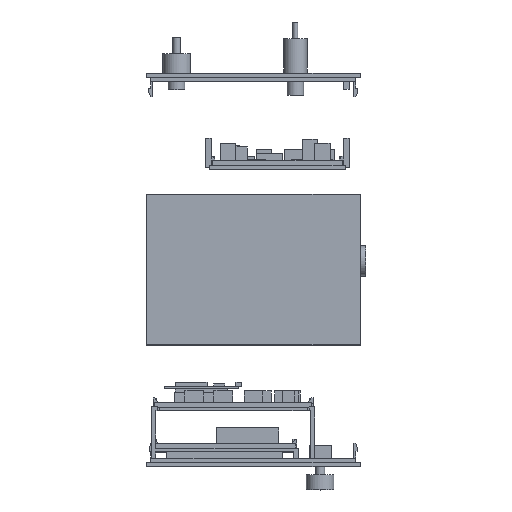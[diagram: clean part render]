
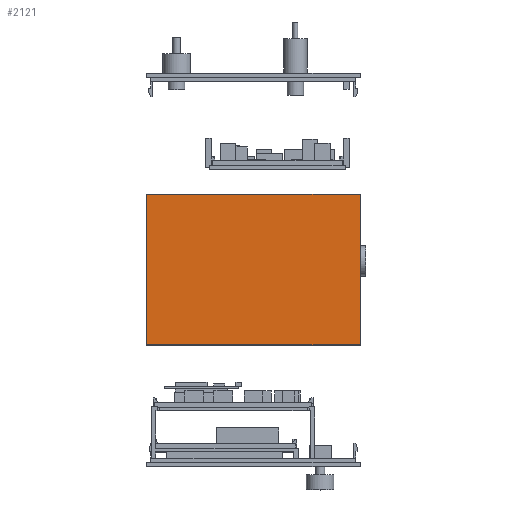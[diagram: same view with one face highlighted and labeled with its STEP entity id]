
A CAD part, top view. The second image highlights one B-rep face of the part: STEP entity #2121.
In plain terms, the highlighted planar face has unit normal (0, 0, 1).
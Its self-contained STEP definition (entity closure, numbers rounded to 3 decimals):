
#430 = VERTEX_POINT('',#431);
#431 = CARTESIAN_POINT('',(0.,3.,100.));
#438 = PLANE('',#439);
#439 = AXIS2_PLACEMENT_3D('',#440,#441,#442);
#440 = CARTESIAN_POINT('',(0.,3.,0.));
#441 = DIRECTION('',(1.,0.,0.));
#442 = DIRECTION('',(0.,0.,1.));
#450 = PLANE('',#451);
#451 = AXIS2_PLACEMENT_3D('',#452,#453,#454);
#452 = CARTESIAN_POINT('',(0.,3.,0.));
#453 = DIRECTION('',(0.,1.,0.));
#454 = DIRECTION('',(0.,0.,1.));
#491 = VERTEX_POINT('',#492);
#492 = CARTESIAN_POINT('',(0.,112.,100.));
#506 = PLANE('',#507);
#507 = AXIS2_PLACEMENT_3D('',#508,#509,#510);
#508 = CARTESIAN_POINT('',(0.,112.,0.));
#509 = DIRECTION('',(0.,1.,0.));
#510 = DIRECTION('',(0.,0.,1.));
#518 = EDGE_CURVE('',#430,#491,#519,.T.);
#519 = SURFACE_CURVE('',#520,(#524,#531),.PCURVE_S1.);
#520 = LINE('',#521,#522);
#521 = CARTESIAN_POINT('',(0.,3.,100.));
#522 = VECTOR('',#523,1.);
#523 = DIRECTION('',(0.,1.,0.));
#524 = PCURVE('',#438,#525);
#525 = DEFINITIONAL_REPRESENTATION('',(#526),#530);
#526 = LINE('',#527,#528);
#527 = CARTESIAN_POINT('',(100.,0.));
#528 = VECTOR('',#529,1.);
#529 = DIRECTION('',(0.,-1.));
#530 = ( GEOMETRIC_REPRESENTATION_CONTEXT(2) 
PARAMETRIC_REPRESENTATION_CONTEXT() REPRESENTATION_CONTEXT('2D SPACE',''
  ) );
#531 = PCURVE('',#532,#537);
#532 = PLANE('',#533);
#533 = AXIS2_PLACEMENT_3D('',#534,#535,#536);
#534 = CARTESIAN_POINT('',(0.,3.,100.));
#535 = DIRECTION('',(0.,0.,1.));
#536 = DIRECTION('',(1.,0.,0.));
#537 = DEFINITIONAL_REPRESENTATION('',(#538),#542);
#538 = LINE('',#539,#540);
#539 = CARTESIAN_POINT('',(0.,0.));
#540 = VECTOR('',#541,1.);
#541 = DIRECTION('',(0.,1.));
#542 = ( GEOMETRIC_REPRESENTATION_CONTEXT(2) 
PARAMETRIC_REPRESENTATION_CONTEXT() REPRESENTATION_CONTEXT('2D SPACE',''
  ) );
#1959 = EDGE_CURVE('',#430,#1960,#1962,.T.);
#1960 = VERTEX_POINT('',#1961);
#1961 = CARTESIAN_POINT('',(155.,3.,100.));
#1962 = SURFACE_CURVE('',#1963,(#1967,#1974),.PCURVE_S1.);
#1963 = LINE('',#1964,#1965);
#1964 = CARTESIAN_POINT('',(0.,3.,100.));
#1965 = VECTOR('',#1966,1.);
#1966 = DIRECTION('',(1.,0.,0.));
#1967 = PCURVE('',#450,#1968);
#1968 = DEFINITIONAL_REPRESENTATION('',(#1969),#1973);
#1969 = LINE('',#1970,#1971);
#1970 = CARTESIAN_POINT('',(100.,0.));
#1971 = VECTOR('',#1972,1.);
#1972 = DIRECTION('',(0.,1.));
#1973 = ( GEOMETRIC_REPRESENTATION_CONTEXT(2) 
PARAMETRIC_REPRESENTATION_CONTEXT() REPRESENTATION_CONTEXT('2D SPACE',''
  ) );
#1974 = PCURVE('',#532,#1975);
#1975 = DEFINITIONAL_REPRESENTATION('',(#1976),#1980);
#1976 = LINE('',#1977,#1978);
#1977 = CARTESIAN_POINT('',(0.,0.));
#1978 = VECTOR('',#1979,1.);
#1979 = DIRECTION('',(1.,0.));
#1980 = ( GEOMETRIC_REPRESENTATION_CONTEXT(2) 
PARAMETRIC_REPRESENTATION_CONTEXT() REPRESENTATION_CONTEXT('2D SPACE',''
  ) );
#1996 = PLANE('',#1997);
#1997 = AXIS2_PLACEMENT_3D('',#1998,#1999,#2000);
#1998 = CARTESIAN_POINT('',(155.,3.,0.));
#1999 = DIRECTION('',(1.,0.,0.));
#2000 = DIRECTION('',(0.,0.,1.));
#2121 = ADVANCED_FACE('',(#2122),#532,.T.);
#2122 = FACE_BOUND('',#2123,.T.);
#2123 = EDGE_LOOP('',(#2124,#2125,#2126,#2149));
#2124 = ORIENTED_EDGE('',*,*,#518,.F.);
#2125 = ORIENTED_EDGE('',*,*,#1959,.T.);
#2126 = ORIENTED_EDGE('',*,*,#2127,.T.);
#2127 = EDGE_CURVE('',#1960,#2128,#2130,.T.);
#2128 = VERTEX_POINT('',#2129);
#2129 = CARTESIAN_POINT('',(155.,112.,100.));
#2130 = SURFACE_CURVE('',#2131,(#2135,#2142),.PCURVE_S1.);
#2131 = LINE('',#2132,#2133);
#2132 = CARTESIAN_POINT('',(155.,3.,100.));
#2133 = VECTOR('',#2134,1.);
#2134 = DIRECTION('',(0.,1.,0.));
#2135 = PCURVE('',#532,#2136);
#2136 = DEFINITIONAL_REPRESENTATION('',(#2137),#2141);
#2137 = LINE('',#2138,#2139);
#2138 = CARTESIAN_POINT('',(155.,0.));
#2139 = VECTOR('',#2140,1.);
#2140 = DIRECTION('',(0.,1.));
#2141 = ( GEOMETRIC_REPRESENTATION_CONTEXT(2) 
PARAMETRIC_REPRESENTATION_CONTEXT() REPRESENTATION_CONTEXT('2D SPACE',''
  ) );
#2142 = PCURVE('',#1996,#2143);
#2143 = DEFINITIONAL_REPRESENTATION('',(#2144),#2148);
#2144 = LINE('',#2145,#2146);
#2145 = CARTESIAN_POINT('',(100.,0.));
#2146 = VECTOR('',#2147,1.);
#2147 = DIRECTION('',(0.,-1.));
#2148 = ( GEOMETRIC_REPRESENTATION_CONTEXT(2) 
PARAMETRIC_REPRESENTATION_CONTEXT() REPRESENTATION_CONTEXT('2D SPACE',''
  ) );
#2149 = ORIENTED_EDGE('',*,*,#2150,.F.);
#2150 = EDGE_CURVE('',#491,#2128,#2151,.T.);
#2151 = SURFACE_CURVE('',#2152,(#2156,#2163),.PCURVE_S1.);
#2152 = LINE('',#2153,#2154);
#2153 = CARTESIAN_POINT('',(0.,112.,100.));
#2154 = VECTOR('',#2155,1.);
#2155 = DIRECTION('',(1.,0.,0.));
#2156 = PCURVE('',#532,#2157);
#2157 = DEFINITIONAL_REPRESENTATION('',(#2158),#2162);
#2158 = LINE('',#2159,#2160);
#2159 = CARTESIAN_POINT('',(0.,109.));
#2160 = VECTOR('',#2161,1.);
#2161 = DIRECTION('',(1.,0.));
#2162 = ( GEOMETRIC_REPRESENTATION_CONTEXT(2) 
PARAMETRIC_REPRESENTATION_CONTEXT() REPRESENTATION_CONTEXT('2D SPACE',''
  ) );
#2163 = PCURVE('',#506,#2164);
#2164 = DEFINITIONAL_REPRESENTATION('',(#2165),#2169);
#2165 = LINE('',#2166,#2167);
#2166 = CARTESIAN_POINT('',(100.,0.));
#2167 = VECTOR('',#2168,1.);
#2168 = DIRECTION('',(0.,1.));
#2169 = ( GEOMETRIC_REPRESENTATION_CONTEXT(2) 
PARAMETRIC_REPRESENTATION_CONTEXT() REPRESENTATION_CONTEXT('2D SPACE',''
  ) );
